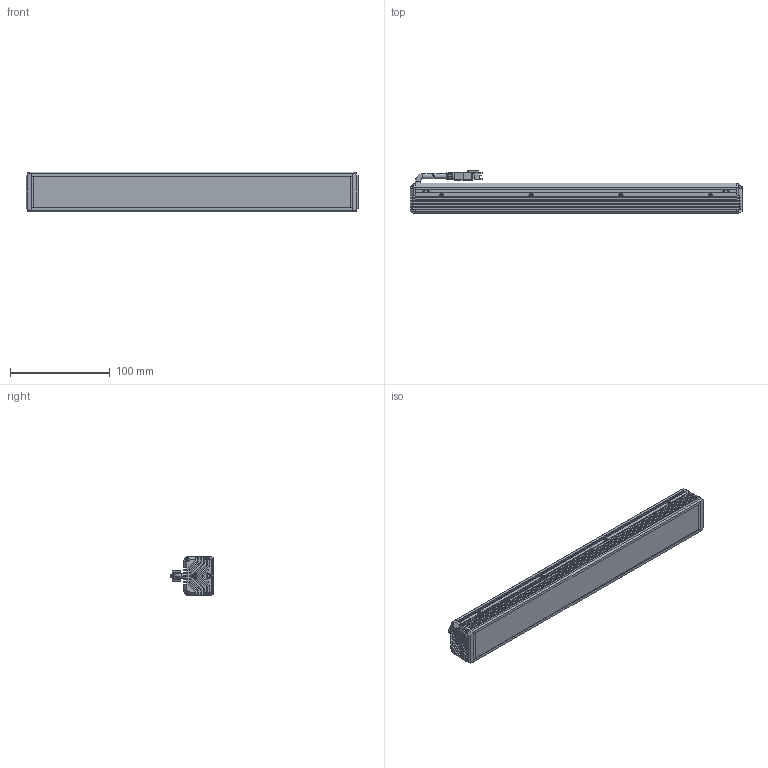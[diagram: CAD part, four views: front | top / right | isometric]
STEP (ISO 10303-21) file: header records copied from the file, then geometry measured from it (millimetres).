
FILE_DESCRIPTION((''),'2;1');
FILE_NAME('MV-LLDS-H-350-40-W-PL_ASM','2024-04-08T13:58:49',('huguozhe'),(''),'CREO PARAMETRIC BY PTC INC, 2020044','CREO PARAMETRIC BY PTC INC, 2020044','');
FILE_SCHEMA(('AUTOMOTIVE_DESIGN { 1 0 10303 214 1 1 1 1 }'));
Length unit declared in the file: millimetre
Products named in the file (15): DE-15-001182; DE-15-001181_ASM; DE-15-000494; DE-15-000493_ASM; DE-12-002350; TIP-M3X4-4_5X5-SO-ET-07061033; DE-12-002350_ASM; DE-12-001596; SC-KM2X6-BNI-GB819; XIANLAN_HEAD; CABLE_HEAD; CABLE_HEAD_ASM_ASM; 190100852; SC-PM2X6B-JMP; MV-LLDS-H-350-40-W-PL_ASM
Assembly tree (33 placements, depth 3):
  MV-LLDS-H-350-40-W-PL_ASM
    DE-15-001181_ASM
      DE-15-001182
    DE-15-000493_ASM
      DE-15-000494
    DE-12-002350_ASM  x2
      DE-12-002350
      TIP-M3X4-4_5X5-SO-ET-07061033
    DE-12-001596
    SC-KM2X6-BNI-GB819  x4
    CABLE_HEAD_ASM_ASM
      XIANLAN_HEAD
      CABLE_HEAD
    190100852  x8
    SC-PM2X6B-JMP  x8
Bounding box: 333 x 42.65 x 40 mm (x, y, z)
Volume: 309900.8 mm3; surface area: 162770.2 mm2
Topology: 31 solids, 67 shells, 2821 faces, 7293 edges, 4595 vertices
Faces by surface type: plane 1364, cylinder 589, bspline 472, cone 337, torus 50, sphere 8, extrusion 1
Entity records: 48890 total; most frequent: CARTESIAN_POINT 11382, ORIENTED_EDGE 6304, DIRECTION 6080, EDGE_CURVE 3184, VERTEX_POINT 2042, VECTOR 2036, LINE 2035, AXIS2_PLACEMENT_3D 2022
